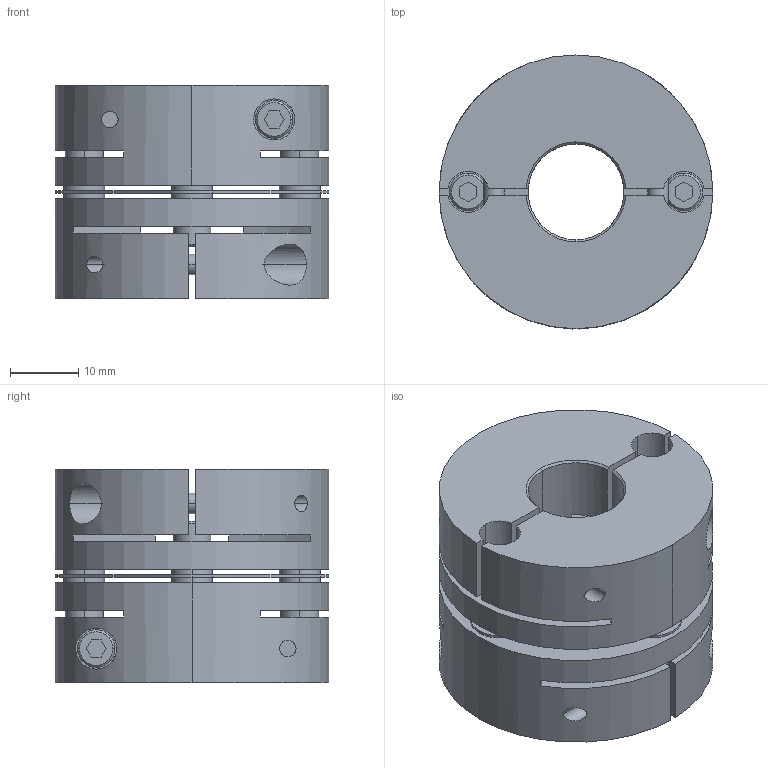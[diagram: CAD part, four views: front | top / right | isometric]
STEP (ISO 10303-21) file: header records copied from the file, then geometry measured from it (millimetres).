
FILE_DESCRIPTION((''),'2;1');
FILE_NAME('LAS-40C-14×18.stp','2014-02-05T09:00:04',(''),(''),'AutoCAD STEP 2000i','AutoCAD 2000i',', , ');
FILE_SCHEMA(('CONFIG_CONTROL_DESIGN'));
Length unit declared in the file: millimetre
Products named in the file (6): LAS-40C-10×15; 忣兜1; LA-4002-D15; LA-4002-D10-1; LA-4002-D10; LAS40-ITA
Assembly tree (5 placements, depth 2):
  LAS-40C-10×15
    忣兜1
    LA-4002-D15
    LA-4002-D10-1
    LA-4002-D10
    LAS40-ITA
Bounding box: 40 x 40 x 31.2 mm (x, y, z)
Volume: 28251.4 mm3; surface area: 15049 mm2
Topology: 1 solids, 1 shells, 236 faces, 624 edges, 408 vertices
Faces by surface type: plane 112, cylinder 96, cone 28
Entity records: 8177 total; most frequent: CARTESIAN_POINT 1970, DIRECTION 1304, ORIENTED_EDGE 1248, EDGE_CURVE 624, AXIS2_PLACEMENT_3D 478, VERTEX_POINT 408, VECTOR 348, LINE 348
